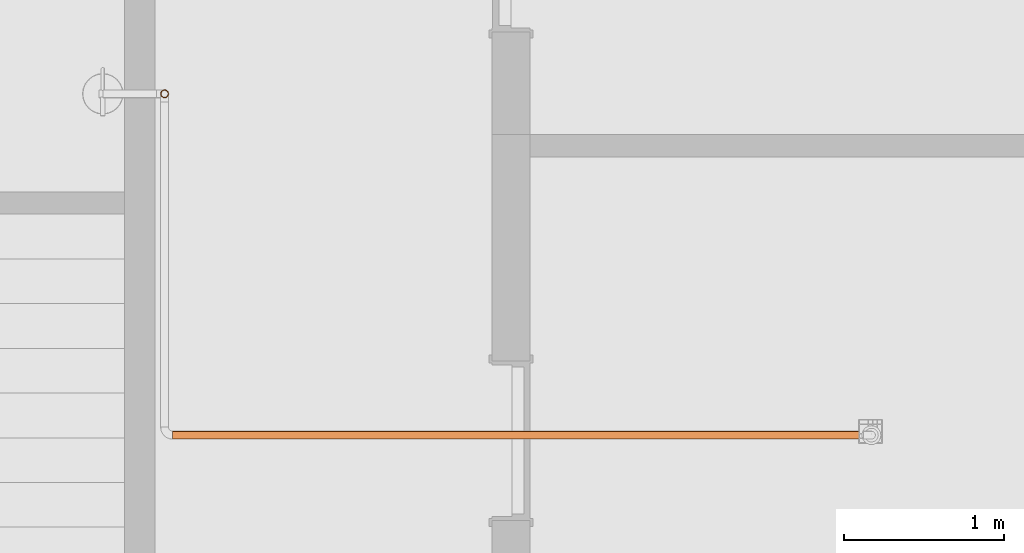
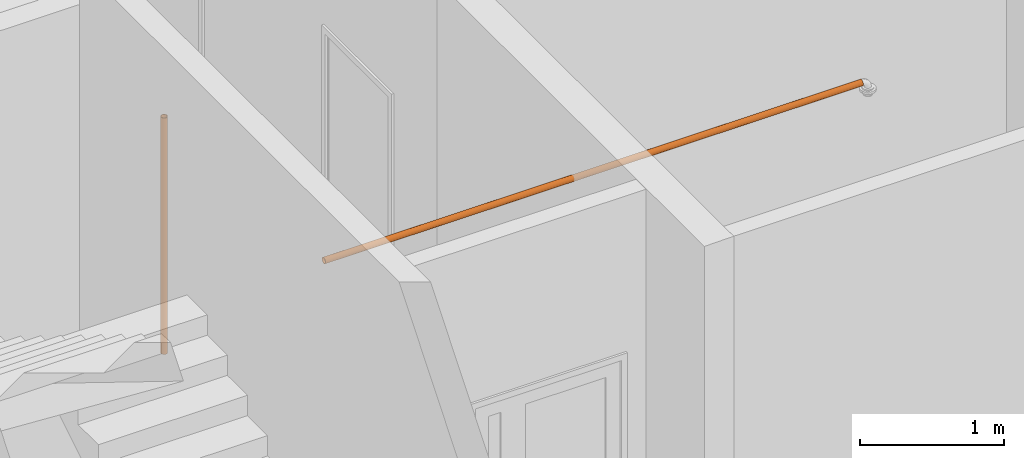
# One storey, part 106 of 112: 2 proxies.
"""IFC2X3 building model written with IfcOpenShell, lengths in millimetres."""

from ifc_helpers import new_model, entity, si_unit, converted_unit, derived_unit, money_unit, direction, frame, origin_with_axes, place, context, subcontext, project, spatial, faceted_brep, type_object, element, save


model = new_model("IFC2X3")

# Units and contexts
model_context = context("Model", 3, precision=0.01, world=origin_with_axes(), true_north=direction((0.0, 1.0)))
body_context = subcontext(model_context, "Body", "Model", "MODEL_VIEW")
ifc_project = project(units=[si_unit("LENGTHUNIT", "METRE", prefix="MILLI"), si_unit("AREAUNIT", "SQUARE_METRE"), si_unit("VOLUMEUNIT", "CUBIC_METRE"), converted_unit("PLANEANGLEUNIT", "DEGREE", entity("IfcPlaneAngleMeasure", 0.0174532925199), si_unit("PLANEANGLEUNIT", "RADIAN"), dimensions=[0, 0, 0, 0, 0, 0, 0]), si_unit("SOLIDANGLEUNIT", "STERADIAN"), money_unit("EUR"), converted_unit("TIMEUNIT", "Year", entity("IfcTimeMeasure", 31556926.0), si_unit("TIMEUNIT", "SECOND"), dimensions=[0, 0, 1, 0, 0, 0, 0]), si_unit("MASSUNIT", "GRAM", prefix="KILO"), si_unit("THERMODYNAMICTEMPERATUREUNIT", "DEGREE_CELSIUS"), si_unit("LUMINOUSINTENSITYUNIT", "LUMEN"), si_unit("ENERGYUNIT", "JOULE", prefix="MEGA"), derived_unit("THERMALCONDUCTANCEUNIT", [(si_unit("POWERUNIT", "WATT"), 1), (si_unit("LENGTHUNIT", "METRE"), -1), (si_unit("THERMODYNAMICTEMPERATUREUNIT", "KELVIN"), -1)]), derived_unit("SPECIFICHEATCAPACITYUNIT", [(si_unit("ENERGYUNIT", "JOULE"), 1), (si_unit("MASSUNIT", "GRAM", prefix="KILO"), -1), (si_unit("THERMODYNAMICTEMPERATUREUNIT", "KELVIN"), -1)]), derived_unit("MASSDENSITYUNIT", [(si_unit("MASSUNIT", "GRAM", prefix="KILO"), 1), (si_unit("VOLUMEUNIT", "CUBIC_METRE"), -1)])], contexts=[model_context])

# Site, building, storey
site_placement = place(None, origin_with_axes())
site = spatial("IfcSite", under=ifc_project, at=site_placement, Name="Politse- ja Piirivalveameti ning Päästeameti ühishoone", CompositionType="ELEMENT")
building_placement = place(site_placement, origin_with_axes())
building = spatial("IfcBuilding", under=site, at=building_placement, Name="Politse- ja Piirivalveameti ning Päästeameti ühishoone", CompositionType="ELEMENT")
storey_placement = place(building_placement, origin_with_axes())
storey = spatial("IfcBuildingStorey", under=building, at=storey_placement, Name="Esimene korrus", CompositionType="ELEMENT", Elevation=0.0)

# Proxies
building_element_proxy_type = type_object("IfcBuildingElementProxyType", Name="Tube 23", PredefinedType="NOTDEFINED")
proxy_1_placement = place(storey_placement, frame((63160.6441918, 18116.309139, 2925.0), z_axis=(0.0, 0.0, 1.0), x_axis=(-1.0, 0.0, 0.0)))
element("IfcBuildingElementProxy", 1, at=proxy_1_placement, inside=storey, type_object=building_element_proxy_type, Name="Balloon Novec 1231", context=body_context, shape_type="Brep", body=[
    faceted_brep([(0.0, 0.0, -25.0), (0.0, 6.47047612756, -24.1481456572), (0.0, 12.5, -21.6506350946), (0.0, 17.6776695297, -17.6776695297), (0.0, 21.6506350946, -12.5), (0.0, 24.1481456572, -6.47047612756), (0.0, 25.0, 0.0), (0.0, 24.1481456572, 6.47047612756), (0.0, 21.6506350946, 12.5), (0.0, 17.6776695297, 17.6776695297), (0.0, 12.5, 21.6506350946), (0.0, 6.47047612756, 24.1481456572), (0.0, 0.0, 25.0), (0.0, -6.47047612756, 24.1481456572), (0.0, -12.5, 21.6506350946), (0.0, -17.6776695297, 17.6776695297), (0.0, -21.6506350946, 12.5), (0.0, -24.1481456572, 6.47047612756), (0.0, -25.0, 0.0), (0.0, -24.1481456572, -6.47047612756), (0.0, -21.6506350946, -12.5), (0.0, -17.6776695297, -17.6776695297), (0.0, -12.5, -21.6506350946), (0.0, -6.47047612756, -24.1481456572), (0.0, -11.0, -19.0525588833), (0.0, -15.5563491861, -15.5563491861), (0.0, -19.0525588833, -11.0), (0.0, -21.2503681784, -5.69401899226), (0.0, -22.0, 0.0), (0.0, -21.2503681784, 5.69401899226), (0.0, -19.0525588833, 11.0), (0.0, -15.5563491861, 15.5563491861), (0.0, -11.0, 19.0525588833), (0.0, -5.69401899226, 21.2503681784), (0.0, 0.0, 22.0), (0.0, 5.69401899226, 21.2503681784), (0.0, 11.0, 19.0525588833), (0.0, 15.5563491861, 15.5563491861), (0.0, 19.0525588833, 11.0), (0.0, 21.2503681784, 5.69401899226), (0.0, 22.0, 0.0), (0.0, 21.2503681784, -5.69401899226), (0.0, 19.0525588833, -11.0), (0.0, 15.5563491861, -15.5563491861), (0.0, 11.0, -19.0525588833), (0.0, 5.69401899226, -21.2503681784), (0.0, 0.0, -22.0), (0.0, -5.69401899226, -21.2503681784), (-4327.22498345, 0.0, -25.0), (-4327.22498345, 6.47047612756, -24.1481456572), (-4327.22498345, 12.5, -21.6506350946), (-4327.22498345, 17.6776695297, -17.6776695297), (-4327.22498345, 21.6506350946, -12.5), (-4327.22498345, 24.1481456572, -6.47047612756), (-4327.22498345, 25.0, 0.0), (-4327.22498345, 24.1481456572, 6.47047612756), (-4327.22498345, 21.6506350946, 12.5), (-4327.22498345, 17.6776695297, 17.6776695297), (-4327.22498345, 12.5, 21.6506350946), (-4327.22498345, 6.47047612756, 24.1481456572), (-4327.22498345, 0.0, 25.0), (-4327.22498345, -6.47047612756, 24.1481456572), (-4327.22498345, -12.5, 21.6506350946), (-4327.22498345, -17.6776695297, 17.6776695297), (-4327.22498345, -21.6506350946, 12.5), (-4327.22498345, -24.1481456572, 6.47047612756), (-4327.22498345, -25.0, 0.0), (-4327.22498345, -24.1481456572, -6.47047612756), (-4327.22498345, -21.6506350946, -12.5), (-4327.22498345, -17.6776695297, -17.6776695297), (-4327.22498345, -12.5, -21.6506350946), (-4327.22498345, -6.47047612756, -24.1481456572), (-4327.22498345, -15.5563491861, -15.5563491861), (-4327.22498345, -11.0, -19.0525588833), (-4327.22498345, -19.0525588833, -11.0), (-4327.22498345, -21.2503681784, -5.69401899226), (-4327.22498345, -22.0, 0.0), (-4327.22498345, -21.2503681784, 5.69401899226), (-4327.22498345, -19.0525588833, 11.0), (-4327.22498345, -15.5563491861, 15.5563491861), (-4327.22498345, -11.0, 19.0525588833), (-4327.22498345, -5.69401899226, 21.2503681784), (-4327.22498345, 0.0, 22.0), (-4327.22498345, 5.69401899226, 21.2503681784), (-4327.22498345, 11.0, 19.0525588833), (-4327.22498345, 15.5563491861, 15.5563491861), (-4327.22498345, 19.0525588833, 11.0), (-4327.22498345, 21.2503681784, 5.69401899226), (-4327.22498345, 22.0, 0.0), (-4327.22498345, 21.2503681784, -5.69401899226), (-4327.22498345, 19.0525588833, -11.0), (-4327.22498345, 15.5563491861, -15.5563491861), (-4327.22498345, 11.0, -19.0525588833), (-4327.22498345, 5.69401899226, -21.2503681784), (-4327.22498345, 0.0, -22.0), (-4327.22498345, -5.69401899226, -21.2503681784)], [[[0, 1, 2, 3, 4, 5, 6, 7, 8, 9, 10, 11, 12, 13, 14, 15, 16, 17, 18, 19, 20, 21, 22, 23], [24, 25, 26, 27, 28, 29, 30, 31, 32, 33, 34, 35, 36, 37, 38, 39, 40, 41, 42, 43, 44, 45, 46, 47]], [[48, 49, 1, 0]], [[49, 50, 2, 1]], [[50, 51, 3, 2]], [[51, 52, 4, 3]], [[52, 53, 5, 4]], [[53, 54, 6, 5]], [[54, 55, 7, 6]], [[55, 56, 8, 7]], [[56, 57, 9, 8]], [[57, 58, 10, 9]], [[58, 59, 11, 10]], [[59, 60, 12, 11]], [[60, 61, 13, 12]], [[61, 62, 14, 13]], [[62, 63, 15, 14]], [[63, 64, 16, 15]], [[64, 65, 17, 16]], [[65, 66, 18, 17]], [[66, 67, 19, 18]], [[67, 68, 20, 19]], [[68, 69, 21, 20]], [[69, 70, 22, 21]], [[70, 71, 23, 22]], [[71, 48, 0, 23]], [[72, 25, 24, 73]], [[74, 26, 25, 72]], [[75, 27, 26, 74]], [[76, 28, 27, 75]], [[77, 29, 28, 76]], [[78, 30, 29, 77]], [[79, 31, 30, 78]], [[80, 32, 31, 79]], [[81, 33, 32, 80]], [[82, 34, 33, 81]], [[83, 35, 34, 82]], [[84, 36, 35, 83]], [[85, 37, 36, 84]], [[86, 38, 37, 85]], [[87, 39, 38, 86]], [[88, 40, 39, 87]], [[89, 41, 40, 88]], [[90, 42, 41, 89]], [[91, 43, 42, 90]], [[92, 44, 43, 91]], [[93, 45, 44, 92]], [[94, 46, 45, 93]], [[95, 47, 46, 94]], [[73, 24, 47, 95]], [[70, 69, 68, 67, 66, 65, 64, 63, 62, 61, 60, 59, 58, 57, 56, 55, 54, 53, 52, 51, 50, 49, 48, 71], [92, 91, 90, 89, 88, 87, 86, 85, 84, 83, 82, 81, 80, 79, 78, 77, 76, 75, 74, 72, 73, 95, 94, 93]]]),
])
proxy_2_placement = place(storey_placement, frame((63110.6441918, 20253.9447321, 865.0), z_axis=(0.0, 0.0, 1.0), x_axis=(-1.0, 0.0, 0.0)))
element("IfcBuildingElementProxy", 2, at=proxy_2_placement, inside=storey, type_object=building_element_proxy_type, Name="Balloon Novec 1231", context=body_context, shape_type="Brep", body=[
    faceted_brep([(-25.0, 0.0, 0.0), (-24.1481456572, 6.47047612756, 0.0), (-21.6506350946, 12.5, 0.0), (-17.6776695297, 17.6776695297, 0.0), (-12.5, 21.6506350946, 0.0), (-6.47047612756, 24.1481456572, 0.0), (0.0, 25.0, 0.0), (6.47047612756, 24.1481456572, 0.0), (12.5, 21.6506350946, 0.0), (17.6776695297, 17.6776695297, 0.0), (21.6506350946, 12.5, 0.0), (24.1481456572, 6.47047612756, 0.0), (25.0, 0.0, 0.0), (24.1481456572, -6.47047612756, 0.0), (21.6506350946, -12.5, 0.0), (17.6776695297, -17.6776695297, 0.0), (12.5, -21.6506350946, 0.0), (6.47047612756, -24.1481456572, 0.0), (0.0, -25.0, 0.0), (-6.47047612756, -24.1481456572, 0.0), (-12.5, -21.6506350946, 0.0), (-17.6776695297, -17.6776695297, 0.0), (-21.6506350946, -12.5, 0.0), (-24.1481456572, -6.47047612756, 0.0), (-19.0525588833, -11.0, 0.0), (-15.5563491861, -15.5563491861, 0.0), (-11.0, -19.0525588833, 0.0), (-5.69401899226, -21.2503681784, 0.0), (0.0, -22.0, 0.0), (5.69401899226, -21.2503681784, 0.0), (11.0, -19.0525588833, 0.0), (15.5563491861, -15.5563491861, 0.0), (19.0525588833, -11.0, 0.0), (21.2503681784, -5.69401899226, 0.0), (22.0, 0.0, 0.0), (21.2503681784, 5.69401899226, 0.0), (19.0525588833, 11.0, 0.0), (15.5563491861, 15.5563491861, 0.0), (11.0, 19.0525588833, 0.0), (5.69401899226, 21.2503681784, 0.0), (0.0, 22.0, 0.0), (-5.69401899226, 21.2503681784, 0.0), (-11.0, 19.0525588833, 0.0), (-15.5563491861, 15.5563491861, 0.0), (-19.0525588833, 11.0, 0.0), (-21.2503681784, 5.69401899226, 0.0), (-22.0, 0.0, 0.0), (-21.2503681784, -5.69401899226, 0.0), (-25.0, 0.0, 2010.34104197), (-24.1481456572, 6.47047612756, 2010.34104197), (-21.6506350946, 12.5, 2010.34104197), (-17.6776695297, 17.6776695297, 2010.34104197), (-12.5, 21.6506350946, 2010.34104197), (-6.47047612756, 24.1481456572, 2010.34104197), (0.0, 25.0, 2010.34104197), (6.47047612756, 24.1481456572, 2010.34104197), (12.5, 21.6506350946, 2010.34104197), (17.6776695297, 17.6776695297, 2010.34104197), (21.6506350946, 12.5, 2010.34104197), (24.1481456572, 6.47047612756, 2010.34104197), (25.0, 0.0, 2010.34104197), (24.1481456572, -6.47047612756, 2010.34104197), (21.6506350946, -12.5, 2010.34104197), (17.6776695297, -17.6776695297, 2010.34104197), (12.5, -21.6506350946, 2010.34104197), (6.47047612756, -24.1481456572, 2010.34104197), (0.0, -25.0, 2010.34104197), (-6.47047612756, -24.1481456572, 2010.34104197), (-12.5, -21.6506350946, 2010.34104197), (-17.6776695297, -17.6776695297, 2010.34104197), (-21.6506350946, -12.5, 2010.34104197), (-24.1481456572, -6.47047612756, 2010.34104197), (-15.5563491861, -15.5563491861, 2010.34104197), (-19.0525588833, -11.0, 2010.34104197), (-11.0, -19.0525588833, 2010.34104197), (-5.69401899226, -21.2503681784, 2010.34104197), (0.0, -22.0, 2010.34104197), (5.69401899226, -21.2503681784, 2010.34104197), (11.0, -19.0525588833, 2010.34104197), (15.5563491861, -15.5563491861, 2010.34104197), (19.0525588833, -11.0, 2010.34104197), (21.2503681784, -5.69401899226, 2010.34104197), (22.0, 0.0, 2010.34104197), (21.2503681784, 5.69401899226, 2010.34104197), (19.0525588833, 11.0, 2010.34104197), (15.5563491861, 15.5563491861, 2010.34104197), (11.0, 19.0525588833, 2010.34104197), (5.69401899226, 21.2503681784, 2010.34104197), (0.0, 22.0, 2010.34104197), (-5.69401899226, 21.2503681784, 2010.34104197), (-11.0, 19.0525588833, 2010.34104197), (-15.5563491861, 15.5563491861, 2010.34104197), (-19.0525588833, 11.0, 2010.34104197), (-21.2503681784, 5.69401899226, 2010.34104197), (-22.0, 0.0, 2010.34104197), (-21.2503681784, -5.69401899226, 2010.34104197)], [[[0, 1, 2, 3, 4, 5, 6, 7, 8, 9, 10, 11, 12, 13, 14, 15, 16, 17, 18, 19, 20, 21, 22, 23], [24, 25, 26, 27, 28, 29, 30, 31, 32, 33, 34, 35, 36, 37, 38, 39, 40, 41, 42, 43, 44, 45, 46, 47]], [[48, 49, 1, 0]], [[49, 50, 2, 1]], [[50, 51, 3, 2]], [[51, 52, 4, 3]], [[52, 53, 5, 4]], [[53, 54, 6, 5]], [[54, 55, 7, 6]], [[55, 56, 8, 7]], [[56, 57, 9, 8]], [[57, 58, 10, 9]], [[58, 59, 11, 10]], [[59, 60, 12, 11]], [[60, 61, 13, 12]], [[61, 62, 14, 13]], [[62, 63, 15, 14]], [[63, 64, 16, 15]], [[64, 65, 17, 16]], [[65, 66, 18, 17]], [[66, 67, 19, 18]], [[67, 68, 20, 19]], [[68, 69, 21, 20]], [[69, 70, 22, 21]], [[70, 71, 23, 22]], [[71, 48, 0, 23]], [[72, 25, 24, 73]], [[74, 26, 25, 72]], [[75, 27, 26, 74]], [[76, 28, 27, 75]], [[77, 29, 28, 76]], [[78, 30, 29, 77]], [[79, 31, 30, 78]], [[80, 32, 31, 79]], [[81, 33, 32, 80]], [[82, 34, 33, 81]], [[83, 35, 34, 82]], [[84, 36, 35, 83]], [[85, 37, 36, 84]], [[86, 38, 37, 85]], [[87, 39, 38, 86]], [[88, 40, 39, 87]], [[89, 41, 40, 88]], [[90, 42, 41, 89]], [[91, 43, 42, 90]], [[92, 44, 43, 91]], [[93, 45, 44, 92]], [[94, 46, 45, 93]], [[95, 47, 46, 94]], [[73, 24, 47, 95]], [[70, 69, 68, 67, 66, 65, 64, 63, 62, 61, 60, 59, 58, 57, 56, 55, 54, 53, 52, 51, 50, 49, 48, 71], [92, 91, 90, 89, 88, 87, 86, 85, 84, 83, 82, 81, 80, 79, 78, 77, 76, 75, 74, 72, 73, 95, 94, 93]]]),
])

save(model, "model.ifc")
